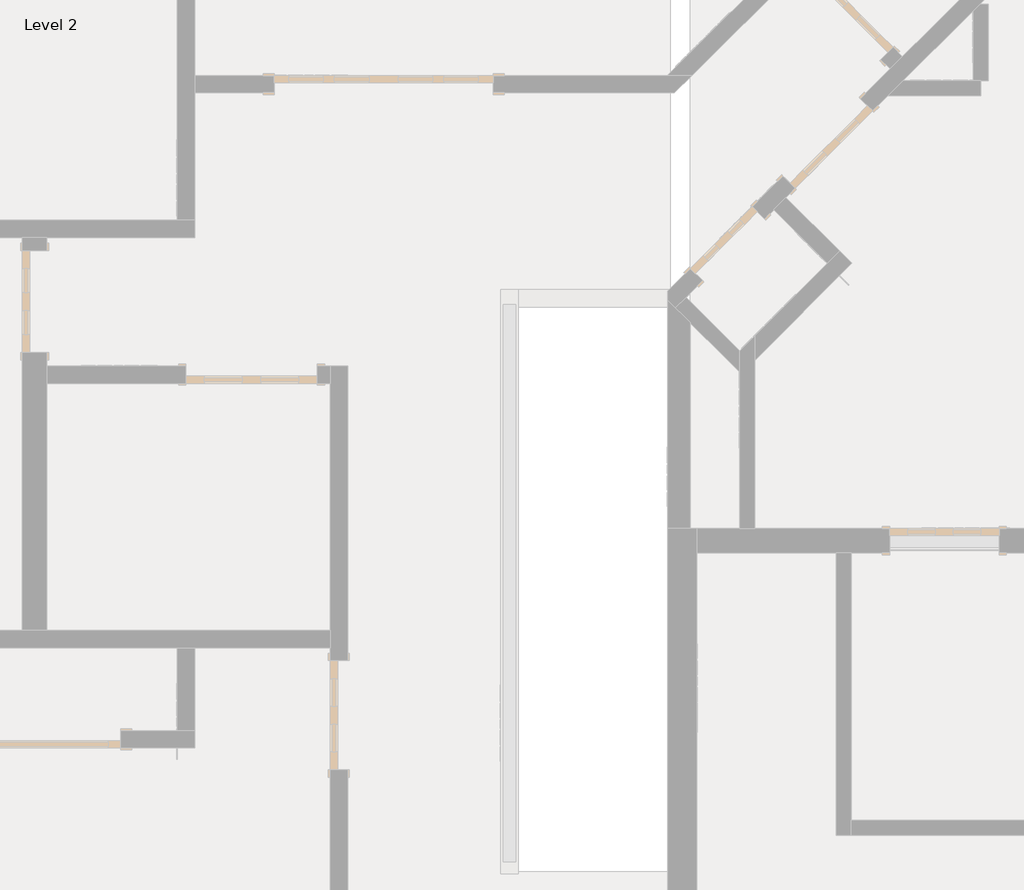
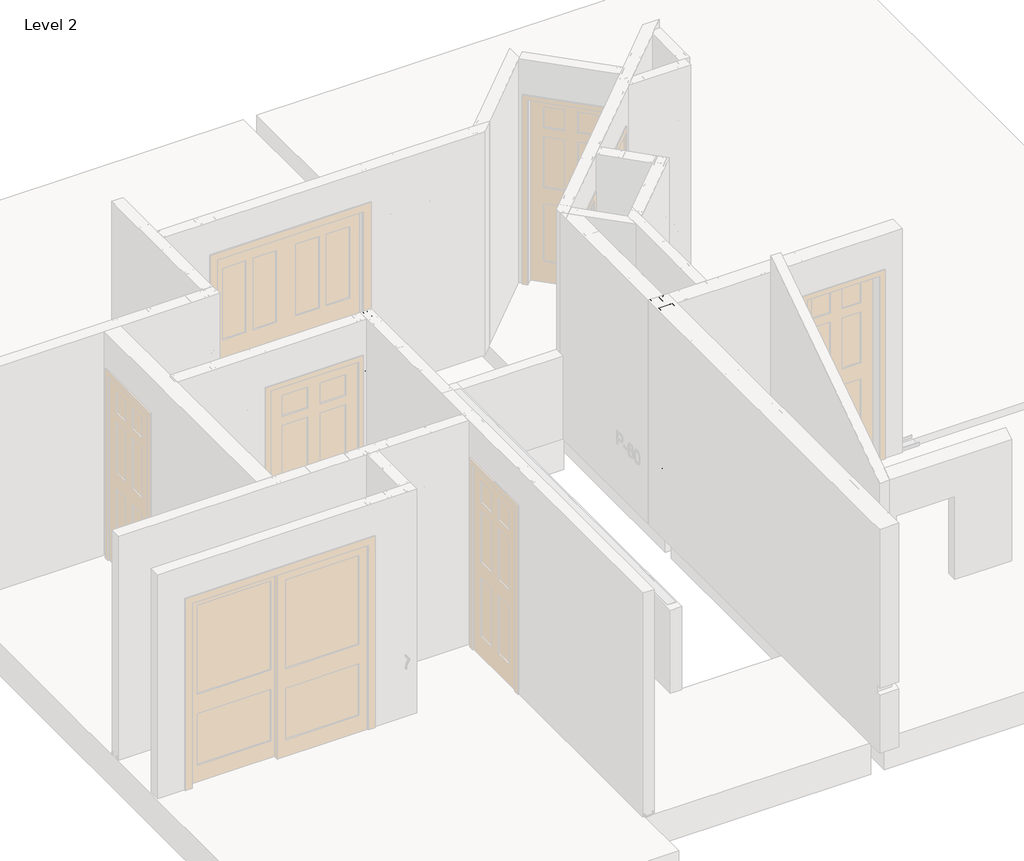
# One storey, part 16 of 46: 7 columns.
"""IFC4 building model written with IfcOpenShell, lengths in millimetres."""

from ifc_helpers import new_model, si_unit, point, frame, origin, place, context, project, spatial, circle_curve, ellipse_curve, trimmed, element, save
from ifc_brep_helpers import plane_surface, extruded_surface, advanced_brep

model = new_model("IFC4")

# Units and contexts
model_context = context("Model", 3, world=origin())
ifc_project = project(units=[si_unit("LENGTHUNIT", "METRE", prefix="MILLI")], contexts=[model_context])

# Site, building, storey
site = spatial("IfcSite", under=ifc_project)
building = spatial("IfcBuilding", under=site)
storey = spatial("IfcBuildingStorey", under=building, Name="Level 2", Elevation=3060.7)

# Columns
placement = place(None, origin())
element("IfcColumn", 1, ObjectType="BIMSF-SSMA-S-Column : 350NF150-33", at=placement, inside=storey, context=model_context, shape_type="AdvancedBrep", body=[
    advanced_brep(
    [(-10177.5913349, 7045.1849099, 3061.5929687), (-10266.4913349, 7045.1849099, 3061.5929687), (-10266.4913349, 7083.2849099, 3061.5929687), (-10260.8338191, 7083.2849099, 3061.5929687), (-10260.8338191, 7082.4025941, 3061.5929687), (-10265.6090191, 7082.4025941, 3061.5929687), (-10265.6090191, 7046.0672257, 3061.5929687), (-10178.4736507, 7046.0672257, 3061.5929687), (-10178.4736507, 7082.4025941, 3061.5929687), (-10183.2488507, 7082.4025941, 3061.5929687), (-10183.2488507, 7083.2849099, 3061.5929687), (-10177.5913349, 7083.2849099, 3061.5929687), (-10177.5913349, 7045.1849099, 3974.2070312), (-10266.4913349, 7045.1849099, 3974.2070312), (-10234.7413349, 7045.1849099, 3671.1929688), (-10209.3413349, 7045.1849099, 3671.1929688), (-10266.4913349, 7083.2849099, 3974.2070312), (-10260.8338191, 7083.2849099, 3974.2070312), (-10260.8338191, 7082.4025941, 3974.2070312), (-10265.6090191, 7082.4025941, 3974.2070312), (-10265.6090191, 7046.0672257, 3974.2070312), (-10178.4736507, 7046.0672257, 3974.2070312), (-10209.3413349, 7046.0672257, 3671.1929687), (-10234.7413349, 7046.0672257, 3671.1929687), (-10178.4736507, 7082.4025941, 3974.2070312), (-10183.2488507, 7082.4025941, 3974.2070312), (-10183.2488507, 7083.2849099, 3974.2070312), (-10177.5913349, 7083.2849099, 3974.2070312)],
    [
        (0, 1),
        (1, 2),
        (2, 3),
        (3, 4),
        (4, 5),
        (5, 6),
        (6, 7),
        (7, 8),
        (8, 9),
        (9, 10),
        (10, 11),
        (11, 0),
        (0, 12),
        (12, 13),
        (13, 1),
        (14, 15, circle_curve(frame((-10222.0413349, 7045.1849099, 3671.1929688), z_axis=(0.0, 1.0, 0.0), x_axis=(-1.0, 0.0, 0.0)), 12.7)),
        (15, 14, circle_curve(frame((-10222.0413349, 7045.1849099, 3671.1929687), z_axis=(0.0, 1.0, 0.0), x_axis=(-1.0, 0.0, 0.0)), 12.7)),
        (13, 16),
        (16, 2),
        (16, 17),
        (17, 3),
        (17, 18),
        (18, 4),
        (18, 19),
        (19, 5),
        (19, 20),
        (20, 6),
        (20, 21),
        (21, 7),
        (22, 23, circle_curve(frame((-10222.0413349, 7046.0672257, 3671.1929688), z_axis=(0.0, -1.0, 0.0), x_axis=(-1.0, 0.0, 0.0)), 12.7)),
        (23, 22, circle_curve(frame((-10222.0413349, 7046.0672257, 3671.1929687), z_axis=(0.0, -1.0, 0.0), x_axis=(-1.0, 0.0, 0.0)), 12.7)),
        (21, 24),
        (24, 8),
        (24, 25),
        (25, 9),
        (25, 26),
        (26, 10),
        (26, 27),
        (27, 11),
        (27, 12),
        (22, 15),
        (14, 23),
    ],
    [
        plane_surface(frame((-10177.5913349, 7045.1849099, 3061.5929687), z_axis=(0.0, 0.0, -1.0), x_axis=(0.0, -1.0, 0.0))),
        plane_surface(frame((-10266.4913349, 7045.1849099, 3974.2070312), z_axis=(0.0, -1.0, 0.0), x_axis=(0.0, 0.0, -1.0))),
        plane_surface(frame((-10266.4913349, 7083.2849099, 3974.2070312), z_axis=(-1.0, 0.0, 0.0), x_axis=(0.0, 0.0, -1.0))),
        plane_surface(frame((-10260.8338191, 7083.2849099, 3974.2070312), z_axis=(0.0, 1.0, 0.0), x_axis=(0.0, 0.0, -1.0))),
        plane_surface(frame((-10260.8338191, 7082.4025941, 3974.2070312), z_axis=(1.0, 0.0, 0.0), x_axis=(0.0, 0.0, -1.0))),
        plane_surface(frame((-10265.6090191, 7082.4025941, 3974.2070312), z_axis=(0.0, -1.0, 0.0), x_axis=(0.0, 0.0, -1.0))),
        plane_surface(frame((-10265.6090191, 7046.0672257, 3974.2070312), z_axis=(1.0, 0.0, 0.0), x_axis=(0.0, 0.0, -1.0))),
        plane_surface(frame((-10178.4736507, 7046.0672257, 3974.2070312), z_axis=(0.0, 1.0, 0.0), x_axis=(0.0, 0.0, -1.0))),
        plane_surface(frame((-10178.4736507, 7082.4025941, 3974.2070312), z_axis=(-1.0, 0.0, 0.0), x_axis=(0.0, 0.0, -1.0))),
        plane_surface(frame((-10183.2488507, 7082.4025941, 3974.2070312), z_axis=(0.0, -1.0, 0.0), x_axis=(0.0, 0.0, -1.0))),
        plane_surface(frame((-10183.2488507, 7083.2849099, 3974.2070312), z_axis=(-1.0, 0.0, 0.0), x_axis=(0.0, 0.0, -1.0))),
        plane_surface(frame((-10177.5913349, 7083.2849099, 3974.2070312), z_axis=(0.0, 1.0, 0.0), x_axis=(0.0, 0.0, -1.0))),
        plane_surface(frame((-10177.5913349, 7045.1849099, 3974.2070312), z_axis=(1.0, 0.0, 0.0), x_axis=(0.0, 0.0, -1.0))),
        plane_surface(frame((-10177.5913349, 7045.1849099, 3974.2070312), z_axis=(0.0, 0.0, 1.0), x_axis=(0.0, 1.0, 0.0))),
        extruded_surface(trimmed(ellipse_curve(frame((-10222.0413349, 7976.8489724, 3671.1929688), z_axis=(0.0, -1.0, 0.0), x_axis=(-1.0, 0.0, 0.0)), 12.7, 12.7), [point((-10209.3413349, 7976.8489724, 3671.1929688))], [point((-10234.7413349, 7976.8489724, 3671.1929688))], True, "CARTESIAN"), (0.0, 1825.2281250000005, 0.0), 1825.2281250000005),
        extruded_surface(trimmed(ellipse_curve(frame((-10222.0413349, 7976.8489724, 3671.1929688), z_axis=(0.0, -1.0, 0.0), x_axis=(-1.0, 0.0, 0.0)), 12.7, 12.7), [point((-10234.7413349, 7976.8489724, 3671.1929688))], [point((-10209.3413349, 7976.8489724, 3671.1929688))], True, "CARTESIAN"), (0.0, 1825.2281250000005, 0.0), 1825.2281250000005),
    ],
    [
        (0, [[1, 2, 3, 4, 5, 6, 7, 8, 9, 10, 11, 12]]),
        (1, [[-1, 13, 14, 15], [16, 17]]),
        (2, [[-2, -15, 18, 19]]),
        (3, [[-3, -19, 20, 21]]),
        (4, [[-4, -21, 22, 23]]),
        (5, [[-5, -23, 24, 25]]),
        (6, [[-6, -25, 26, 27]]),
        (7, [[-7, -27, 28, 29], [30, 31]]),
        (8, [[-8, -29, 32, 33]]),
        (9, [[-9, -33, 34, 35]]),
        (10, [[-10, -35, 36, 37]]),
        (11, [[-11, -37, 38, 39]]),
        (12, [[-12, -39, 40, -13]]),
        (13, [[-14, -40, -38, -36, -34, -32, -28, -26, -24, -22, -20, -18]]),
        (14, [[41, -16, 42, -30]]),
        (15, [[-41, -31, -42, -17]]),
    ],
),
])
element("IfcColumn", 2, ObjectType="BIMSF-SSMA-S-Column : 350NF150-33", at=placement, inside=storey, context=model_context, shape_type="AdvancedBrep", body=[
    advanced_brep(
    [(-10177.5913349, 7451.5849099, 3061.5929687), (-10266.4913349, 7451.5849099, 3061.5929687), (-10266.4913349, 7489.6849099, 3061.5929687), (-10260.8338191, 7489.6849099, 3061.5929687), (-10260.8338191, 7488.8025941, 3061.5929687), (-10265.6090191, 7488.8025941, 3061.5929687), (-10265.6090191, 7452.4672257, 3061.5929687), (-10178.4736507, 7452.4672257, 3061.5929687), (-10178.4736507, 7488.8025941, 3061.5929687), (-10183.2488507, 7488.8025941, 3061.5929687), (-10183.2488507, 7489.6849099, 3061.5929687), (-10177.5913349, 7489.6849099, 3061.5929687), (-10177.5913349, 7451.5849099, 3974.2070312), (-10266.4913349, 7451.5849099, 3974.2070312), (-10234.7413349, 7451.5849099, 3671.1929688), (-10209.3413349, 7451.5849099, 3671.1929688), (-10266.4913349, 7489.6849099, 3974.2070312), (-10260.8338191, 7489.6849099, 3974.2070312), (-10260.8338191, 7488.8025941, 3974.2070312), (-10265.6090191, 7488.8025941, 3974.2070312), (-10265.6090191, 7452.4672257, 3974.2070312), (-10178.4736507, 7452.4672257, 3974.2070312), (-10209.3413349, 7452.4672257, 3671.1929688), (-10234.7413349, 7452.4672257, 3671.1929688), (-10178.4736507, 7488.8025941, 3974.2070312), (-10183.2488507, 7488.8025941, 3974.2070312), (-10183.2488507, 7489.6849099, 3974.2070312), (-10177.5913349, 7489.6849099, 3974.2070312)],
    [
        (0, 1),
        (1, 2),
        (2, 3),
        (3, 4),
        (4, 5),
        (5, 6),
        (6, 7),
        (7, 8),
        (8, 9),
        (9, 10),
        (10, 11),
        (11, 0),
        (0, 12),
        (12, 13),
        (13, 1),
        (14, 15, circle_curve(frame((-10222.0413349, 7451.5849099, 3671.1929688), z_axis=(0.0, 1.0, 0.0), x_axis=(-1.0, 0.0, 0.0)), 12.7)),
        (15, 14, circle_curve(frame((-10222.0413349, 7451.5849099, 3671.1929688), z_axis=(0.0, 1.0, 0.0), x_axis=(-1.0, 0.0, 0.0)), 12.7)),
        (13, 16),
        (16, 2),
        (16, 17),
        (17, 3),
        (17, 18),
        (18, 4),
        (18, 19),
        (19, 5),
        (19, 20),
        (20, 6),
        (20, 21),
        (21, 7),
        (22, 23, circle_curve(frame((-10222.0413349, 7452.4672257, 3671.1929688), z_axis=(0.0, -1.0, 0.0), x_axis=(-1.0, 0.0, 0.0)), 12.7)),
        (23, 22, circle_curve(frame((-10222.0413349, 7452.4672257, 3671.1929688), z_axis=(0.0, -1.0, 0.0), x_axis=(-1.0, 0.0, 0.0)), 12.7)),
        (21, 24),
        (24, 8),
        (24, 25),
        (25, 9),
        (25, 26),
        (26, 10),
        (26, 27),
        (27, 11),
        (27, 12),
        (22, 15),
        (14, 23),
    ],
    [
        plane_surface(frame((-10177.5913349, 7451.5849099, 3061.5929687), z_axis=(0.0, 0.0, -1.0), x_axis=(0.0, -1.0, 0.0))),
        plane_surface(frame((-10266.4913349, 7451.5849099, 3974.2070312), z_axis=(0.0, -1.0, 0.0), x_axis=(0.0, 0.0, -1.0))),
        plane_surface(frame((-10266.4913349, 7489.6849099, 3974.2070312), z_axis=(-1.0, 0.0, 0.0), x_axis=(0.0, 0.0, -1.0))),
        plane_surface(frame((-10260.8338191, 7489.6849099, 3974.2070312), z_axis=(0.0, 1.0, 0.0), x_axis=(0.0, 0.0, -1.0))),
        plane_surface(frame((-10260.8338191, 7488.8025941, 3974.2070312), z_axis=(1.0, 0.0, 0.0), x_axis=(0.0, 0.0, -1.0))),
        plane_surface(frame((-10265.6090191, 7488.8025941, 3974.2070312), z_axis=(0.0, -1.0, 0.0), x_axis=(0.0, 0.0, -1.0))),
        plane_surface(frame((-10265.6090191, 7452.4672257, 3974.2070312), z_axis=(1.0, 0.0, 0.0), x_axis=(0.0, 0.0, -1.0))),
        plane_surface(frame((-10178.4736507, 7452.4672257, 3974.2070312), z_axis=(0.0, 1.0, 0.0), x_axis=(0.0, 0.0, -1.0))),
        plane_surface(frame((-10178.4736507, 7488.8025941, 3974.2070312), z_axis=(-1.0, 0.0, 0.0), x_axis=(0.0, 0.0, -1.0))),
        plane_surface(frame((-10183.2488507, 7488.8025941, 3974.2070312), z_axis=(0.0, -1.0, 0.0), x_axis=(0.0, 0.0, -1.0))),
        plane_surface(frame((-10183.2488507, 7489.6849099, 3974.2070312), z_axis=(-1.0, 0.0, 0.0), x_axis=(0.0, 0.0, -1.0))),
        plane_surface(frame((-10177.5913349, 7489.6849099, 3974.2070312), z_axis=(0.0, 1.0, 0.0), x_axis=(0.0, 0.0, -1.0))),
        plane_surface(frame((-10177.5913349, 7451.5849099, 3974.2070312), z_axis=(1.0, 0.0, 0.0), x_axis=(0.0, 0.0, -1.0))),
        plane_surface(frame((-10177.5913349, 7451.5849099, 3974.2070312), z_axis=(0.0, 0.0, 1.0), x_axis=(0.0, 1.0, 0.0))),
        extruded_surface(trimmed(ellipse_curve(frame((-10222.0413349, 8383.2489724, 3671.1929688), z_axis=(0.0, -1.0, 0.0), x_axis=(-1.0, 0.0, 0.0)), 12.7, 12.7), [point((-10209.3413349, 8383.2489724, 3671.1929688))], [point((-10234.7413349, 8383.2489724, 3671.1929688))], True, "CARTESIAN"), (0.0, 1825.2281249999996, 0.0), 1825.2281249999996),
        extruded_surface(trimmed(ellipse_curve(frame((-10222.0413349, 8383.2489724, 3671.1929688), z_axis=(0.0, -1.0, 0.0), x_axis=(-1.0, 0.0, 0.0)), 12.7, 12.7), [point((-10234.7413349, 8383.2489724, 3671.1929688))], [point((-10209.3413349, 8383.2489724, 3671.1929688))], True, "CARTESIAN"), (0.0, 1825.2281249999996, 0.0), 1825.2281249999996),
    ],
    [
        (0, [[1, 2, 3, 4, 5, 6, 7, 8, 9, 10, 11, 12]]),
        (1, [[-1, 13, 14, 15], [16, 17]]),
        (2, [[-2, -15, 18, 19]]),
        (3, [[-3, -19, 20, 21]]),
        (4, [[-4, -21, 22, 23]]),
        (5, [[-5, -23, 24, 25]]),
        (6, [[-6, -25, 26, 27]]),
        (7, [[-7, -27, 28, 29], [30, 31]]),
        (8, [[-8, -29, 32, 33]]),
        (9, [[-9, -33, 34, 35]]),
        (10, [[-10, -35, 36, 37]]),
        (11, [[-11, -37, 38, 39]]),
        (12, [[-12, -39, 40, -13]]),
        (13, [[-14, -40, -38, -36, -34, -32, -28, -26, -24, -22, -20, -18]]),
        (14, [[41, -16, 42, -30]]),
        (15, [[-41, -31, -42, -17]]),
    ],
),
])
element("IfcColumn", 3, ObjectType="BIMSF-SSMA-S-Column : 350NF150-33", at=placement, inside=storey, context=model_context, shape_type="AdvancedBrep", body=[
    advanced_brep(
    [(-10177.5913349, 7857.9849099, 3061.5929687), (-10266.4913349, 7857.9849099, 3061.5929687), (-10266.4913349, 7896.0849099, 3061.5929687), (-10260.8338191, 7896.0849099, 3061.5929687), (-10260.8338191, 7895.2025941, 3061.5929687), (-10265.6090191, 7895.2025941, 3061.5929687), (-10265.6090191, 7858.8672257, 3061.5929687), (-10178.4736507, 7858.8672257, 3061.5929687), (-10178.4736507, 7895.2025941, 3061.5929687), (-10183.2488507, 7895.2025941, 3061.5929687), (-10183.2488507, 7896.0849099, 3061.5929687), (-10177.5913349, 7896.0849099, 3061.5929687), (-10177.5913349, 7857.9849099, 3974.2070312), (-10266.4913349, 7857.9849099, 3974.2070312), (-10234.7413349, 7857.9849099, 3671.1929688), (-10209.3413349, 7857.9849099, 3671.1929688), (-10266.4913349, 7896.0849099, 3974.2070312), (-10260.8338191, 7896.0849099, 3974.2070312), (-10260.8338191, 7895.2025941, 3974.2070312), (-10265.6090191, 7895.2025941, 3974.2070312), (-10265.6090191, 7858.8672257, 3974.2070312), (-10178.4736507, 7858.8672257, 3974.2070312), (-10209.3413349, 7858.8672257, 3671.1929688), (-10234.7413349, 7858.8672257, 3671.1929688), (-10178.4736507, 7895.2025941, 3974.2070312), (-10183.2488507, 7895.2025941, 3974.2070312), (-10183.2488507, 7896.0849099, 3974.2070312), (-10177.5913349, 7896.0849099, 3974.2070312)],
    [
        (0, 1),
        (1, 2),
        (2, 3),
        (3, 4),
        (4, 5),
        (5, 6),
        (6, 7),
        (7, 8),
        (8, 9),
        (9, 10),
        (10, 11),
        (11, 0),
        (0, 12),
        (12, 13),
        (13, 1),
        (14, 15, circle_curve(frame((-10222.0413349, 7857.9849099, 3671.1929688), z_axis=(0.0, 1.0, 0.0), x_axis=(-1.0, 0.0, 0.0)), 12.7)),
        (15, 14, circle_curve(frame((-10222.0413349, 7857.9849099, 3671.1929688), z_axis=(0.0, 1.0, 0.0), x_axis=(-1.0, 0.0, 0.0)), 12.7)),
        (13, 16),
        (16, 2),
        (16, 17),
        (17, 3),
        (17, 18),
        (18, 4),
        (18, 19),
        (19, 5),
        (19, 20),
        (20, 6),
        (20, 21),
        (21, 7),
        (22, 23, circle_curve(frame((-10222.0413349, 7858.8672257, 3671.1929688), z_axis=(0.0, -1.0, 0.0), x_axis=(-1.0, 0.0, 0.0)), 12.7)),
        (23, 22, circle_curve(frame((-10222.0413349, 7858.8672257, 3671.1929688), z_axis=(0.0, -1.0, 0.0), x_axis=(-1.0, 0.0, 0.0)), 12.7)),
        (21, 24),
        (24, 8),
        (24, 25),
        (25, 9),
        (25, 26),
        (26, 10),
        (26, 27),
        (27, 11),
        (27, 12),
        (22, 15),
        (14, 23),
    ],
    [
        plane_surface(frame((-10177.5913349, 7857.9849099, 3061.5929687), z_axis=(0.0, 0.0, -1.0), x_axis=(0.0, -1.0, 0.0))),
        plane_surface(frame((-10266.4913349, 7857.9849099, 3974.2070312), z_axis=(0.0, -1.0, 0.0), x_axis=(0.0, 0.0, -1.0))),
        plane_surface(frame((-10266.4913349, 7896.0849099, 3974.2070312), z_axis=(-1.0, 0.0, 0.0), x_axis=(0.0, 0.0, -1.0))),
        plane_surface(frame((-10260.8338191, 7896.0849099, 3974.2070312), z_axis=(0.0, 1.0, 0.0), x_axis=(0.0, 0.0, -1.0))),
        plane_surface(frame((-10260.8338191, 7895.2025941, 3974.2070312), z_axis=(1.0, 0.0, 0.0), x_axis=(0.0, 0.0, -1.0))),
        plane_surface(frame((-10265.6090191, 7895.2025941, 3974.2070312), z_axis=(0.0, -1.0, 0.0), x_axis=(0.0, 0.0, -1.0))),
        plane_surface(frame((-10265.6090191, 7858.8672257, 3974.2070312), z_axis=(1.0, 0.0, 0.0), x_axis=(0.0, 0.0, -1.0))),
        plane_surface(frame((-10178.4736507, 7858.8672257, 3974.2070312), z_axis=(0.0, 1.0, 0.0), x_axis=(0.0, 0.0, -1.0))),
        plane_surface(frame((-10178.4736507, 7895.2025941, 3974.2070312), z_axis=(-1.0, 0.0, 0.0), x_axis=(0.0, 0.0, -1.0))),
        plane_surface(frame((-10183.2488507, 7895.2025941, 3974.2070312), z_axis=(0.0, -1.0, 0.0), x_axis=(0.0, 0.0, -1.0))),
        plane_surface(frame((-10183.2488507, 7896.0849099, 3974.2070312), z_axis=(-1.0, 0.0, 0.0), x_axis=(0.0, 0.0, -1.0))),
        plane_surface(frame((-10177.5913349, 7896.0849099, 3974.2070312), z_axis=(0.0, 1.0, 0.0), x_axis=(0.0, 0.0, -1.0))),
        plane_surface(frame((-10177.5913349, 7857.9849099, 3974.2070312), z_axis=(1.0, 0.0, 0.0), x_axis=(0.0, 0.0, -1.0))),
        plane_surface(frame((-10177.5913349, 7857.9849099, 3974.2070312), z_axis=(0.0, 0.0, 1.0), x_axis=(0.0, 1.0, 0.0))),
        extruded_surface(trimmed(ellipse_curve(frame((-10222.0413349, 8789.6489724, 3671.1929688), z_axis=(0.0, -1.0, 0.0), x_axis=(-1.0, 0.0, 0.0)), 12.7, 12.7), [point((-10209.3413349, 8789.6489724, 3671.1929688))], [point((-10234.7413349, 8789.6489724, 3671.1929688))], True, "CARTESIAN"), (0.0, 1825.2281249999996, 0.0), 1825.2281249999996),
        extruded_surface(trimmed(ellipse_curve(frame((-10222.0413349, 8789.6489724, 3671.1929688), z_axis=(0.0, -1.0, 0.0), x_axis=(-1.0, 0.0, 0.0)), 12.7, 12.7), [point((-10234.7413349, 8789.6489724, 3671.1929688))], [point((-10209.3413349, 8789.6489724, 3671.1929688))], True, "CARTESIAN"), (0.0, 1825.2281249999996, 0.0), 1825.2281249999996),
    ],
    [
        (0, [[1, 2, 3, 4, 5, 6, 7, 8, 9, 10, 11, 12]]),
        (1, [[-1, 13, 14, 15], [16, 17]]),
        (2, [[-2, -15, 18, 19]]),
        (3, [[-3, -19, 20, 21]]),
        (4, [[-4, -21, 22, 23]]),
        (5, [[-5, -23, 24, 25]]),
        (6, [[-6, -25, 26, 27]]),
        (7, [[-7, -27, 28, 29], [30, 31]]),
        (8, [[-8, -29, 32, 33]]),
        (9, [[-9, -33, 34, 35]]),
        (10, [[-10, -35, 36, 37]]),
        (11, [[-11, -37, 38, 39]]),
        (12, [[-12, -39, 40, -13]]),
        (13, [[-14, -40, -38, -36, -34, -32, -28, -26, -24, -22, -20, -18]]),
        (14, [[41, -16, 42, -30]]),
        (15, [[-41, -31, -42, -17]]),
    ],
),
])
element("IfcColumn", 4, ObjectType="BIMSF-SSMA-S-Column : 350NF150-33", at=placement, inside=storey, context=model_context, shape_type="AdvancedBrep", body=[
    advanced_brep(
    [(-11444.4163349, 7566.152221, 3061.5929687), (-11444.4163349, 7655.052221, 3061.5929687), (-11406.3163349, 7655.052221, 3061.5929687), (-11406.3163349, 7649.3947052, 3061.5929687), (-11407.1986507, 7649.3947052, 3061.5929687), (-11407.1986507, 7654.1699052, 3061.5929687), (-11443.5340191, 7654.1699052, 3061.5929687), (-11443.5340191, 7567.0345367, 3061.5929687), (-11407.1986507, 7567.0345367, 3061.5929687), (-11407.1986507, 7571.8097367, 3061.5929687), (-11406.3163349, 7571.8097367, 3061.5929687), (-11406.3163349, 7566.152221, 3061.5929687), (-11444.4163349, 7566.152221, 5523.6070313), (-11444.4163349, 7655.052221, 5523.6070313), (-11444.4163349, 7623.302221, 3671.1929688), (-11444.4163349, 7597.902221, 3671.1929688), (-11444.4163349, 7623.302221, 4890.3929687), (-11444.4163349, 7597.902221, 4890.3929687), (-11406.3163349, 7655.052221, 5523.6070313), (-11406.3163349, 7649.3947052, 5523.6070313), (-11407.1986507, 7649.3947052, 5523.6070313), (-11407.1986507, 7654.1699052, 5523.6070313), (-11443.5340191, 7654.1699052, 5523.6070313), (-11443.5340191, 7567.0345367, 5523.6070313), (-11443.5340191, 7597.902221, 3671.1929688), (-11443.5340191, 7623.302221, 3671.1929688), (-11443.5340191, 7597.902221, 4890.3929687), (-11443.5340191, 7623.302221, 4890.3929687), (-11407.1986507, 7567.0345367, 5523.6070313), (-11407.1986507, 7571.8097367, 5523.6070313), (-11406.3163349, 7571.8097367, 5523.6070313), (-11406.3163349, 7566.152221, 5523.6070313)],
    [
        (0, 1),
        (1, 2),
        (2, 3),
        (3, 4),
        (4, 5),
        (5, 6),
        (6, 7),
        (7, 8),
        (8, 9),
        (9, 10),
        (10, 11),
        (11, 0),
        (0, 12),
        (12, 13),
        (13, 1),
        (14, 15, circle_curve(frame((-11444.4163349, 7610.602221, 3671.1929688), z_axis=(1.0, 0.0, 0.0), x_axis=(0.0, 1.0, 0.0)), 12.7)),
        (15, 14, circle_curve(frame((-11444.4163349, 7610.602221, 3671.1929688), z_axis=(1.0, 0.0, 0.0), x_axis=(0.0, 1.0, 0.0)), 12.7)),
        (16, 17, circle_curve(frame((-11444.4163349, 7610.602221, 4890.3929687), z_axis=(1.0, 0.0, 0.0), x_axis=(0.0, 1.0, 0.0)), 12.7)),
        (17, 16, circle_curve(frame((-11444.4163349, 7610.602221, 4890.3929687), z_axis=(1.0, 0.0, 0.0), x_axis=(0.0, 1.0, 0.0)), 12.7)),
        (13, 18),
        (18, 2),
        (18, 19),
        (19, 3),
        (19, 20),
        (20, 4),
        (20, 21),
        (21, 5),
        (21, 22),
        (22, 6),
        (22, 23),
        (23, 7),
        (24, 25, circle_curve(frame((-11443.5340191, 7610.602221, 3671.1929688), z_axis=(-1.0, 0.0, 0.0), x_axis=(0.0, 1.0, 0.0)), 12.7)),
        (25, 24, circle_curve(frame((-11443.5340191, 7610.602221, 3671.1929687), z_axis=(-1.0, 0.0, 0.0), x_axis=(0.0, 1.0, 0.0)), 12.7)),
        (26, 27, circle_curve(frame((-11443.5340191, 7610.602221, 4890.3929687), z_axis=(-1.0, 0.0, 0.0), x_axis=(0.0, 1.0, 0.0)), 12.7)),
        (27, 26, circle_curve(frame((-11443.5340191, 7610.602221, 4890.3929687), z_axis=(-1.0, 0.0, 0.0), x_axis=(0.0, 1.0, 0.0)), 12.7)),
        (23, 28),
        (28, 8),
        (28, 29),
        (29, 9),
        (29, 30),
        (30, 10),
        (30, 31),
        (31, 11),
        (31, 12),
        (24, 15),
        (14, 25),
        (26, 17),
        (16, 27),
    ],
    [
        plane_surface(frame((-11444.4163349, 7566.152221, 3061.5929687), z_axis=(0.0, 0.0, -1.0), x_axis=(-1.0, 0.0, 0.0))),
        plane_surface(frame((-11444.4163349, 7655.052221, 5523.6070313), z_axis=(-1.0, 0.0, 0.0), x_axis=(0.0, 0.0, -1.0))),
        plane_surface(frame((-11406.3163349, 7655.052221, 5523.6070313), z_axis=(0.0, 1.0, 0.0), x_axis=(0.0, 0.0, -1.0))),
        plane_surface(frame((-11406.3163349, 7649.3947052, 5523.6070313), z_axis=(1.0, 0.0, 0.0), x_axis=(0.0, 0.0, -1.0))),
        plane_surface(frame((-11407.1986507, 7649.3947052, 5523.6070313), z_axis=(0.0, -1.0, 0.0), x_axis=(0.0, 0.0, -1.0))),
        plane_surface(frame((-11407.1986507, 7654.1699052, 5523.6070313), z_axis=(-1.0, 0.0, 0.0), x_axis=(0.0, 0.0, -1.0))),
        plane_surface(frame((-11443.5340191, 7654.1699052, 5523.6070313), z_axis=(0.0, -1.0, 0.0), x_axis=(0.0, 0.0, -1.0))),
        plane_surface(frame((-11443.5340191, 7567.0345367, 5523.6070313), z_axis=(1.0, 0.0, 0.0), x_axis=(0.0, 0.0, -1.0))),
        plane_surface(frame((-11407.1986507, 7567.0345367, 5523.6070313), z_axis=(0.0, 1.0, 0.0), x_axis=(0.0, 0.0, -1.0))),
        plane_surface(frame((-11407.1986507, 7571.8097367, 5523.6070313), z_axis=(-1.0, 0.0, 0.0), x_axis=(0.0, 0.0, -1.0))),
        plane_surface(frame((-11406.3163349, 7571.8097367, 5523.6070313), z_axis=(0.0, 1.0, 0.0), x_axis=(0.0, 0.0, -1.0))),
        plane_surface(frame((-11406.3163349, 7566.152221, 5523.6070313), z_axis=(1.0, 0.0, 0.0), x_axis=(0.0, 0.0, -1.0))),
        plane_surface(frame((-11444.4163349, 7566.152221, 5523.6070313), z_axis=(0.0, -1.0, 0.0), x_axis=(0.0, 0.0, -1.0))),
        plane_surface(frame((-11444.4163349, 7566.152221, 5523.6070313), z_axis=(0.0, 0.0, 1.0), x_axis=(1.0, 0.0, 0.0))),
        extruded_surface(trimmed(ellipse_curve(frame((-8963.3522724, 7610.602221, 3671.1929688), z_axis=(-1.0, 0.0, 0.0), x_axis=(0.0, 1.0, 0.0)), 12.7, 12.7), [point((-8963.3522724, 7597.902221, 3671.1929688))], [point((-8963.3522724, 7623.302221, 3671.1929688))], True, "CARTESIAN"), (4924.028124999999, 0.0, 0.0), 4924.028124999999),
        extruded_surface(trimmed(ellipse_curve(frame((-8963.3522724, 7610.602221, 3671.1929688), z_axis=(-1.0, 0.0, 0.0), x_axis=(0.0, 1.0, 0.0)), 12.7, 12.7), [point((-8963.3522724, 7623.302221, 3671.1929688))], [point((-8963.3522724, 7597.902221, 3671.1929688))], True, "CARTESIAN"), (4924.028124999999, 0.0, 0.0), 4924.028124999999),
        extruded_surface(trimmed(ellipse_curve(frame((-8963.3522724, 7610.602221, 4890.3929687), z_axis=(-1.0, 0.0, 0.0), x_axis=(0.0, 1.0, 0.0)), 12.7, 12.7), [point((-8963.3522724, 7597.902221, 4890.3929687))], [point((-8963.3522724, 7623.302221, 4890.3929687))], True, "CARTESIAN"), (4924.028124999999, 0.0, 0.0), 4924.028124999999),
        extruded_surface(trimmed(ellipse_curve(frame((-8963.3522724, 7610.602221, 4890.3929687), z_axis=(-1.0, 0.0, 0.0), x_axis=(0.0, 1.0, 0.0)), 12.7, 12.7), [point((-8963.3522724, 7623.302221, 4890.3929687))], [point((-8963.3522724, 7597.902221, 4890.3929687))], True, "CARTESIAN"), (4924.028124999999, 0.0, 0.0), 4924.028124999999),
    ],
    [
        (0, [[1, 2, 3, 4, 5, 6, 7, 8, 9, 10, 11, 12]]),
        (1, [[-1, 13, 14, 15], [16, 17], [18, 19]]),
        (2, [[-2, -15, 20, 21]]),
        (3, [[-3, -21, 22, 23]]),
        (4, [[-4, -23, 24, 25]]),
        (5, [[-5, -25, 26, 27]]),
        (6, [[-6, -27, 28, 29]]),
        (7, [[-7, -29, 30, 31], [32, 33], [34, 35]]),
        (8, [[-8, -31, 36, 37]]),
        (9, [[-9, -37, 38, 39]]),
        (10, [[-10, -39, 40, 41]]),
        (11, [[-11, -41, 42, 43]]),
        (12, [[-12, -43, 44, -13]]),
        (13, [[-14, -44, -42, -40, -38, -36, -30, -28, -26, -24, -22, -20]]),
        (14, [[45, -16, 46, -32]]),
        (15, [[-45, -33, -46, -17]]),
        (16, [[47, -18, 48, -34]]),
        (17, [[-47, -35, -48, -19]]),
    ],
),
])
element("IfcColumn", 5, ObjectType="BIMSF-SSMA-S-Column : 550NF150-33", at=placement, inside=storey, context=model_context, shape_type="AdvancedBrep", body=[
    advanced_brep(
    [(-8964.7413349, 6499.352221, 3061.5929687), (-9104.4413349, 6499.352221, 3061.5929687), (-9104.4413349, 6537.452221, 3061.5929687), (-9098.7838191, 6537.452221, 3061.5929687), (-9098.7838191, 6536.5699052, 3061.5929687), (-9103.5590191, 6536.5699052, 3061.5929687), (-9103.5590191, 6500.2345367, 3061.5929687), (-8965.6236507, 6500.2345367, 3061.5929687), (-8965.6236507, 6536.5699052, 3061.5929687), (-8970.3988507, 6536.5699052, 3061.5929687), (-8970.3988507, 6537.452221, 3061.5929687), (-8964.7413349, 6537.452221, 3061.5929687), (-8964.7413349, 6499.352221, 5523.6070313), (-9104.4413349, 6499.352221, 5523.6070313), (-9047.2913349, 6499.352221, 3671.1929687), (-9021.8913349, 6499.352221, 3671.1929687), (-9047.2913349, 6499.352221, 4890.3929688), (-9021.8913349, 6499.352221, 4890.3929687), (-9104.4413349, 6537.452221, 5523.6070313), (-9098.7838191, 6537.452221, 5523.6070313), (-9098.7838191, 6536.5699052, 5523.6070313), (-9103.5590191, 6536.5699052, 5523.6070313), (-9103.5590191, 6500.2345367, 5523.6070313), (-8965.6236507, 6500.2345367, 5523.6070313), (-9021.8913349, 6500.2345367, 3671.1929687), (-9047.2913349, 6500.2345367, 3671.1929687), (-9021.8913349, 6500.2345367, 4890.3929688), (-9047.2913349, 6500.2345367, 4890.3929688), (-8965.6236507, 6536.5699052, 5523.6070313), (-8970.3988507, 6536.5699052, 5523.6070313), (-8970.3988507, 6537.452221, 5523.6070313), (-8964.7413349, 6537.452221, 5523.6070313)],
    [
        (0, 1),
        (1, 2),
        (2, 3),
        (3, 4),
        (4, 5),
        (5, 6),
        (6, 7),
        (7, 8),
        (8, 9),
        (9, 10),
        (10, 11),
        (11, 0),
        (0, 12),
        (12, 13),
        (13, 1),
        (14, 15, circle_curve(frame((-9034.5913349, 6499.352221, 3671.1929688), z_axis=(0.0, 1.0, 0.0), x_axis=(-1.0, 0.0, 0.0)), 12.7)),
        (15, 14, circle_curve(frame((-9034.5913349, 6499.352221, 3671.1929688), z_axis=(0.0, 1.0, 0.0), x_axis=(-1.0, 0.0, 0.0)), 12.7)),
        (16, 17, circle_curve(frame((-9034.5913349, 6499.352221, 4890.3929687), z_axis=(0.0, 1.0, 0.0), x_axis=(-1.0, 0.0, 0.0)), 12.7)),
        (17, 16, circle_curve(frame((-9034.5913349, 6499.352221, 4890.3929687), z_axis=(0.0, 1.0, 0.0), x_axis=(-1.0, 0.0, 0.0)), 12.7)),
        (13, 18),
        (18, 2),
        (18, 19),
        (19, 3),
        (19, 20),
        (20, 4),
        (20, 21),
        (21, 5),
        (21, 22),
        (22, 6),
        (22, 23),
        (23, 7),
        (24, 25, circle_curve(frame((-9034.5913349, 6500.2345367, 3671.1929687), z_axis=(0.0, -1.0, 0.0), x_axis=(-1.0, 0.0, 0.0)), 12.7)),
        (25, 24, circle_curve(frame((-9034.5913349, 6500.2345367, 3671.1929688), z_axis=(0.0, -1.0, 0.0), x_axis=(-1.0, 0.0, 0.0)), 12.7)),
        (26, 27, circle_curve(frame((-9034.5913349, 6500.2345367, 4890.3929687), z_axis=(0.0, -1.0, 0.0), x_axis=(-1.0, 0.0, 0.0)), 12.7)),
        (27, 26, circle_curve(frame((-9034.5913349, 6500.2345367, 4890.3929687), z_axis=(0.0, -1.0, 0.0), x_axis=(-1.0, 0.0, 0.0)), 12.7)),
        (23, 28),
        (28, 8),
        (28, 29),
        (29, 9),
        (29, 30),
        (30, 10),
        (30, 31),
        (31, 11),
        (31, 12),
        (24, 15),
        (14, 25),
        (26, 17),
        (16, 27),
    ],
    [
        plane_surface(frame((-8964.7413349, 6499.352221, 3061.5929687), z_axis=(0.0, 0.0, -1.0), x_axis=(0.0, -1.0, 0.0))),
        plane_surface(frame((-9104.4413349, 6499.352221, 5523.6070313), z_axis=(0.0, -1.0, 0.0), x_axis=(0.0, 0.0, -1.0))),
        plane_surface(frame((-9104.4413349, 6537.452221, 5523.6070313), z_axis=(-1.0, 0.0, 0.0), x_axis=(0.0, 0.0, -1.0))),
        plane_surface(frame((-9098.7838191, 6537.452221, 5523.6070313), z_axis=(0.0, 1.0, 0.0), x_axis=(0.0, 0.0, -1.0))),
        plane_surface(frame((-9098.7838191, 6536.5699052, 5523.6070313), z_axis=(1.0, 0.0, 0.0), x_axis=(0.0, 0.0, -1.0))),
        plane_surface(frame((-9103.5590191, 6536.5699052, 5523.6070313), z_axis=(0.0, -1.0, 0.0), x_axis=(0.0, 0.0, -1.0))),
        plane_surface(frame((-9103.5590191, 6500.2345367, 5523.6070313), z_axis=(1.0, 0.0, 0.0), x_axis=(0.0, 0.0, -1.0))),
        plane_surface(frame((-8965.6236507, 6500.2345367, 5523.6070313), z_axis=(0.0, 1.0, 0.0), x_axis=(0.0, 0.0, -1.0))),
        plane_surface(frame((-8965.6236507, 6536.5699052, 5523.6070313), z_axis=(-1.0, 0.0, 0.0), x_axis=(0.0, 0.0, -1.0))),
        plane_surface(frame((-8970.3988507, 6536.5699052, 5523.6070313), z_axis=(0.0, -1.0, 0.0), x_axis=(0.0, 0.0, -1.0))),
        plane_surface(frame((-8970.3988507, 6537.452221, 5523.6070313), z_axis=(-1.0, 0.0, 0.0), x_axis=(0.0, 0.0, -1.0))),
        plane_surface(frame((-8964.7413349, 6537.452221, 5523.6070313), z_axis=(0.0, 1.0, 0.0), x_axis=(0.0, 0.0, -1.0))),
        plane_surface(frame((-8964.7413349, 6499.352221, 5523.6070313), z_axis=(1.0, 0.0, 0.0), x_axis=(0.0, 0.0, -1.0))),
        plane_surface(frame((-8964.7413349, 6499.352221, 5523.6070313), z_axis=(0.0, 0.0, 1.0), x_axis=(0.0, 1.0, 0.0))),
        extruded_surface(trimmed(ellipse_curve(frame((-9034.5913349, 8980.4162835, 3671.1929688), z_axis=(0.0, -1.0, 0.0), x_axis=(-1.0, 0.0, 0.0)), 12.7, 12.7), [point((-9021.8913349, 8980.4162835, 3671.1929688))], [point((-9047.2913349, 8980.4162835, 3671.1929688))], True, "CARTESIAN"), (0.0, 4924.028124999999, 0.0), 4924.028124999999),
        extruded_surface(trimmed(ellipse_curve(frame((-9034.5913349, 8980.4162835, 3671.1929688), z_axis=(0.0, -1.0, 0.0), x_axis=(-1.0, 0.0, 0.0)), 12.7, 12.7), [point((-9047.2913349, 8980.4162835, 3671.1929688))], [point((-9021.8913349, 8980.4162835, 3671.1929688))], True, "CARTESIAN"), (0.0, 4924.028124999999, 0.0), 4924.028124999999),
        extruded_surface(trimmed(ellipse_curve(frame((-9034.5913349, 8980.4162835, 4890.3929687), z_axis=(0.0, -1.0, 0.0), x_axis=(-1.0, 0.0, 0.0)), 12.7, 12.7), [point((-9021.8913349, 8980.4162835, 4890.3929687))], [point((-9047.2913349, 8980.4162835, 4890.3929687))], True, "CARTESIAN"), (0.0, 4924.028124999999, 0.0), 4924.028124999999),
        extruded_surface(trimmed(ellipse_curve(frame((-9034.5913349, 8980.4162835, 4890.3929687), z_axis=(0.0, -1.0, 0.0), x_axis=(-1.0, 0.0, 0.0)), 12.7, 12.7), [point((-9047.2913349, 8980.4162835, 4890.3929687))], [point((-9021.8913349, 8980.4162835, 4890.3929687))], True, "CARTESIAN"), (0.0, 4924.028124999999, 0.0), 4924.028124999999),
    ],
    [
        (0, [[1, 2, 3, 4, 5, 6, 7, 8, 9, 10, 11, 12]]),
        (1, [[-1, 13, 14, 15], [16, 17], [18, 19]]),
        (2, [[-2, -15, 20, 21]]),
        (3, [[-3, -21, 22, 23]]),
        (4, [[-4, -23, 24, 25]]),
        (5, [[-5, -25, 26, 27]]),
        (6, [[-6, -27, 28, 29]]),
        (7, [[-7, -29, 30, 31], [32, 33], [34, 35]]),
        (8, [[-8, -31, 36, 37]]),
        (9, [[-9, -37, 38, 39]]),
        (10, [[-10, -39, 40, 41]]),
        (11, [[-11, -41, 42, 43]]),
        (12, [[-12, -43, 44, -13]]),
        (13, [[-14, -44, -42, -40, -38, -36, -30, -28, -26, -24, -22, -20]]),
        (14, [[45, -16, 46, -32]]),
        (15, [[-45, -33, -46, -17]]),
        (16, [[47, -18, 48, -34]]),
        (17, [[-47, -35, -48, -19]]),
    ],
),
])
element("IfcColumn", 6, ObjectType="BIMSF-SSMA-S-Column : 550NF150-43", at=placement, inside=storey, context=model_context, shape_type="AdvancedBrep", body=[
    advanced_brep(
    [(-9019.5100849, 6385.052221, 3061.5929687), (-9019.5100849, 6524.752221, 3061.5929687), (-8981.4100849, 6524.752221, 3061.5929687), (-8981.4100849, 6518.8273367, 3061.5929687), (-8982.5597691, 6518.8273367, 3061.5929687), (-8982.5597691, 6523.6025367, 3061.5929687), (-9018.3604007, 6523.6025367, 3061.5929687), (-9018.3604007, 6386.2019052, 3061.5929687), (-8982.5597691, 6386.2019052, 3061.5929687), (-8982.5597691, 6390.9771052, 3061.5929687), (-8981.4100849, 6390.9771052, 3061.5929687), (-8981.4100849, 6385.052221, 3061.5929687), (-9019.5100849, 6385.052221, 5523.6070313), (-9019.5100849, 6524.752221, 5523.6070313), (-9019.5100849, 6467.602221, 3671.1929688), (-9019.5100849, 6442.202221, 3671.1929688), (-9019.5100849, 6467.602221, 4890.3929687), (-9019.5100849, 6442.202221, 4890.3929687), (-8981.4100849, 6524.752221, 5523.6070313), (-8981.4100849, 6518.8273367, 5523.6070313), (-8982.5597691, 6518.8273367, 5523.6070313), (-8982.5597691, 6523.6025367, 5523.6070313), (-9018.3604007, 6523.6025367, 5523.6070313), (-9018.3604007, 6386.2019052, 5523.6070313), (-9018.3604007, 6442.202221, 3671.1929688), (-9018.3604007, 6467.602221, 3671.1929688), (-9018.3604007, 6442.202221, 4890.3929687), (-9018.3604007, 6467.602221, 4890.3929687), (-8982.5597691, 6386.2019052, 5523.6070313), (-8982.5597691, 6390.9771052, 5523.6070313), (-8981.4100849, 6390.9771052, 5523.6070313), (-8981.4100849, 6385.052221, 5523.6070313)],
    [
        (0, 1),
        (1, 2),
        (2, 3),
        (3, 4),
        (4, 5),
        (5, 6),
        (6, 7),
        (7, 8),
        (8, 9),
        (9, 10),
        (10, 11),
        (11, 0),
        (0, 12),
        (12, 13),
        (13, 1),
        (14, 15, circle_curve(frame((-9019.5100849, 6454.902221, 3671.1929688), z_axis=(1.0, 0.0, 0.0), x_axis=(0.0, 1.0, 0.0)), 12.7)),
        (15, 14, circle_curve(frame((-9019.5100849, 6454.902221, 3671.1929688), z_axis=(1.0, 0.0, 0.0), x_axis=(0.0, 1.0, 0.0)), 12.7)),
        (16, 17, circle_curve(frame((-9019.5100849, 6454.902221, 4890.3929687), z_axis=(1.0, 0.0, 0.0), x_axis=(0.0, 1.0, 0.0)), 12.7)),
        (17, 16, circle_curve(frame((-9019.5100849, 6454.902221, 4890.3929687), z_axis=(1.0, 0.0, 0.0), x_axis=(0.0, 1.0, 0.0)), 12.7)),
        (13, 18),
        (18, 2),
        (18, 19),
        (19, 3),
        (19, 20),
        (20, 4),
        (20, 21),
        (21, 5),
        (21, 22),
        (22, 6),
        (22, 23),
        (23, 7),
        (24, 25, circle_curve(frame((-9018.3604007, 6454.902221, 3671.1929687), z_axis=(-1.0, 0.0, 0.0), x_axis=(0.0, 1.0, 0.0)), 12.7)),
        (25, 24, circle_curve(frame((-9018.3604007, 6454.902221, 3671.1929687), z_axis=(-1.0, 0.0, 0.0), x_axis=(0.0, 1.0, 0.0)), 12.7)),
        (26, 27, circle_curve(frame((-9018.3604007, 6454.902221, 4890.3929687), z_axis=(-1.0, 0.0, 0.0), x_axis=(0.0, 1.0, 0.0)), 12.7)),
        (27, 26, circle_curve(frame((-9018.3604007, 6454.902221, 4890.3929687), z_axis=(-1.0, 0.0, 0.0), x_axis=(0.0, 1.0, 0.0)), 12.7)),
        (23, 28),
        (28, 8),
        (28, 29),
        (29, 9),
        (29, 30),
        (30, 10),
        (30, 31),
        (31, 11),
        (31, 12),
        (24, 15),
        (14, 25),
        (26, 17),
        (16, 27),
    ],
    [
        plane_surface(frame((-9019.5100849, 6385.052221, 3061.5929687), z_axis=(0.0, 0.0, -1.0), x_axis=(-1.0, 0.0, 0.0))),
        plane_surface(frame((-9019.5100849, 6524.752221, 5523.6070313), z_axis=(-1.0, 0.0, 0.0), x_axis=(0.0, 0.0, -1.0))),
        plane_surface(frame((-8981.4100849, 6524.752221, 5523.6070313), z_axis=(0.0, 1.0, 0.0), x_axis=(0.0, 0.0, -1.0))),
        plane_surface(frame((-8981.4100849, 6518.8273367, 5523.6070313), z_axis=(1.0, 0.0, 0.0), x_axis=(0.0, 0.0, -1.0))),
        plane_surface(frame((-8982.5597691, 6518.8273367, 5523.6070313), z_axis=(0.0, -1.0, 0.0), x_axis=(0.0, 0.0, -1.0))),
        plane_surface(frame((-8982.5597691, 6523.6025367, 5523.6070313), z_axis=(-1.0, 0.0, 0.0), x_axis=(0.0, 0.0, -1.0))),
        plane_surface(frame((-9018.3604007, 6523.6025367, 5523.6070313), z_axis=(0.0, -1.0, 0.0), x_axis=(0.0, 0.0, -1.0))),
        plane_surface(frame((-9018.3604007, 6386.2019052, 5523.6070313), z_axis=(1.0, 0.0, 0.0), x_axis=(0.0, 0.0, -1.0))),
        plane_surface(frame((-8982.5597691, 6386.2019052, 5523.6070313), z_axis=(0.0, 1.0, 0.0), x_axis=(0.0, 0.0, -1.0))),
        plane_surface(frame((-8982.5597691, 6390.9771052, 5523.6070313), z_axis=(-1.0, 0.0, 0.0), x_axis=(0.0, 0.0, -1.0))),
        plane_surface(frame((-8981.4100849, 6390.9771052, 5523.6070313), z_axis=(0.0, 1.0, 0.0), x_axis=(0.0, 0.0, -1.0))),
        plane_surface(frame((-8981.4100849, 6385.052221, 5523.6070313), z_axis=(1.0, 0.0, 0.0), x_axis=(0.0, 0.0, -1.0))),
        plane_surface(frame((-9019.5100849, 6385.052221, 5523.6070313), z_axis=(0.0, -1.0, 0.0), x_axis=(0.0, 0.0, -1.0))),
        plane_surface(frame((-9019.5100849, 6385.052221, 5523.6070313), z_axis=(0.0, 0.0, 1.0), x_axis=(1.0, 0.0, 0.0))),
        extruded_surface(trimmed(ellipse_curve(frame((-6538.4460224, 6454.902221, 3671.1929688), z_axis=(-1.0, 0.0, 0.0), x_axis=(0.0, 1.0, 0.0)), 12.7, 12.7), [point((-6538.4460224, 6442.202221, 3671.1929688))], [point((-6538.4460224, 6467.602221, 3671.1929688))], True, "CARTESIAN"), (4924.028125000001, 0.0, 0.0), 4924.028125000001),
        extruded_surface(trimmed(ellipse_curve(frame((-6538.4460224, 6454.902221, 3671.1929688), z_axis=(-1.0, 0.0, 0.0), x_axis=(0.0, 1.0, 0.0)), 12.7, 12.7), [point((-6538.4460224, 6467.602221, 3671.1929688))], [point((-6538.4460224, 6442.202221, 3671.1929688))], True, "CARTESIAN"), (4924.028125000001, 0.0, 0.0), 4924.028125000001),
        extruded_surface(trimmed(ellipse_curve(frame((-6538.4460224, 6454.902221, 4890.3929687), z_axis=(-1.0, 0.0, 0.0), x_axis=(0.0, 1.0, 0.0)), 12.7, 12.7), [point((-6538.4460224, 6442.202221, 4890.3929687))], [point((-6538.4460224, 6467.602221, 4890.3929687))], True, "CARTESIAN"), (4924.028125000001, 0.0, 0.0), 4924.028125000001),
        extruded_surface(trimmed(ellipse_curve(frame((-6538.4460224, 6454.902221, 4890.3929687), z_axis=(-1.0, 0.0, 0.0), x_axis=(0.0, 1.0, 0.0)), 12.7, 12.7), [point((-6538.4460224, 6467.602221, 4890.3929687))], [point((-6538.4460224, 6442.202221, 4890.3929687))], True, "CARTESIAN"), (4924.028125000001, 0.0, 0.0), 4924.028125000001),
    ],
    [
        (0, [[1, 2, 3, 4, 5, 6, 7, 8, 9, 10, 11, 12]]),
        (1, [[-1, 13, 14, 15], [16, 17], [18, 19]]),
        (2, [[-2, -15, 20, 21]]),
        (3, [[-3, -21, 22, 23]]),
        (4, [[-4, -23, 24, 25]]),
        (5, [[-5, -25, 26, 27]]),
        (6, [[-6, -27, 28, 29]]),
        (7, [[-7, -29, 30, 31], [32, 33], [34, 35]]),
        (8, [[-8, -31, 36, 37]]),
        (9, [[-9, -37, 38, 39]]),
        (10, [[-10, -39, 40, 41]]),
        (11, [[-11, -41, 42, 43]]),
        (12, [[-12, -43, 44, -13]]),
        (13, [[-14, -44, -42, -40, -38, -36, -30, -28, -26, -24, -22, -20]]),
        (14, [[45, -16, 46, -32]]),
        (15, [[-45, -33, -46, -17]]),
        (16, [[47, -18, 48, -34]]),
        (17, [[-47, -35, -48, -19]]),
    ],
),
])
element("IfcColumn", 7, ObjectType="BIMSF-SSMA-S-Column : 550NF150-43", at=placement, inside=storey, context=model_context, shape_type="AdvancedBrep", body=[
    advanced_brep(
    [(-9104.4413349, 6385.052221, 3061.5929687), (-8964.7413349, 6385.052221, 3061.5929687), (-8964.7413349, 6346.952221, 3061.5929687), (-8970.6662191, 6346.952221, 3061.5929687), (-8970.6662191, 6348.1019052, 3061.5929687), (-8965.8910191, 6348.1019052, 3061.5929687), (-8965.8910191, 6383.9025367, 3061.5929687), (-9103.2916507, 6383.9025367, 3061.5929687), (-9103.2916507, 6348.1019052, 3061.5929687), (-9098.5164507, 6348.1019052, 3061.5929687), (-9098.5164507, 6346.952221, 3061.5929687), (-9104.4413349, 6346.952221, 3061.5929687), (-9104.4413349, 6385.052221, 5523.6070313), (-8964.7413349, 6385.052221, 5523.6070313), (-9021.8913349, 6385.052221, 3671.1929688), (-9047.2913349, 6385.052221, 3671.1929688), (-9021.8913349, 6385.052221, 4890.3929687), (-9047.2913349, 6385.052221, 4890.3929687), (-8964.7413349, 6346.952221, 5523.6070313), (-8970.6662191, 6346.952221, 5523.6070313), (-8970.6662191, 6348.1019052, 5523.6070313), (-8965.8910191, 6348.1019052, 5523.6070313), (-8965.8910191, 6383.9025367, 5523.6070313), (-9103.2916507, 6383.9025367, 5523.6070313), (-9047.2913349, 6383.9025367, 3671.1929688), (-9021.8913349, 6383.9025367, 3671.1929688), (-9047.2913349, 6383.9025367, 4890.3929687), (-9021.8913349, 6383.9025367, 4890.3929687), (-9103.2916507, 6348.1019052, 5523.6070313), (-9098.5164507, 6348.1019052, 5523.6070313), (-9098.5164507, 6346.952221, 5523.6070313), (-9104.4413349, 6346.952221, 5523.6070313)],
    [
        (0, 1),
        (1, 2),
        (2, 3),
        (3, 4),
        (4, 5),
        (5, 6),
        (6, 7),
        (7, 8),
        (8, 9),
        (9, 10),
        (10, 11),
        (11, 0),
        (0, 12),
        (12, 13),
        (13, 1),
        (14, 15, circle_curve(frame((-9034.5913349, 6385.052221, 3671.1929688), z_axis=(0.0, -1.0, 0.0), x_axis=(1.0, 0.0, 0.0)), 12.7)),
        (15, 14, circle_curve(frame((-9034.5913349, 6385.052221, 3671.1929688), z_axis=(0.0, -1.0, 0.0), x_axis=(1.0, 0.0, 0.0)), 12.7)),
        (16, 17, circle_curve(frame((-9034.5913349, 6385.052221, 4890.3929687), z_axis=(0.0, -1.0, 0.0), x_axis=(1.0, 0.0, 0.0)), 12.7)),
        (17, 16, circle_curve(frame((-9034.5913349, 6385.052221, 4890.3929687), z_axis=(0.0, -1.0, 0.0), x_axis=(1.0, 0.0, 0.0)), 12.7)),
        (13, 18),
        (18, 2),
        (18, 19),
        (19, 3),
        (19, 20),
        (20, 4),
        (20, 21),
        (21, 5),
        (21, 22),
        (22, 6),
        (22, 23),
        (23, 7),
        (24, 25, circle_curve(frame((-9034.5913349, 6383.9025367, 3671.1929687), z_axis=(0.0, 1.0, 0.0), x_axis=(1.0, 0.0, 0.0)), 12.7)),
        (25, 24, circle_curve(frame((-9034.5913349, 6383.9025367, 3671.1929687), z_axis=(0.0, 1.0, 0.0), x_axis=(1.0, 0.0, 0.0)), 12.7)),
        (26, 27, circle_curve(frame((-9034.5913349, 6383.9025367, 4890.3929687), z_axis=(0.0, 1.0, 0.0), x_axis=(1.0, 0.0, 0.0)), 12.7)),
        (27, 26, circle_curve(frame((-9034.5913349, 6383.9025367, 4890.3929687), z_axis=(0.0, 1.0, 0.0), x_axis=(1.0, 0.0, 0.0)), 12.7)),
        (23, 28),
        (28, 8),
        (28, 29),
        (29, 9),
        (29, 30),
        (30, 10),
        (30, 31),
        (31, 11),
        (31, 12),
        (24, 15),
        (14, 25),
        (26, 17),
        (16, 27),
    ],
    [
        plane_surface(frame((-9104.4413349, 6385.052221, 3061.5929687), z_axis=(0.0, 0.0, -1.0), x_axis=(0.0, 1.0, 0.0))),
        plane_surface(frame((-8964.7413349, 6385.052221, 5523.6070313), z_axis=(0.0, 1.0, 0.0), x_axis=(0.0, 0.0, -1.0))),
        plane_surface(frame((-8964.7413349, 6346.952221, 5523.6070313), z_axis=(1.0, 0.0, 0.0), x_axis=(0.0, 0.0, -1.0))),
        plane_surface(frame((-8970.6662191, 6346.952221, 5523.6070313), z_axis=(0.0, -1.0, 0.0), x_axis=(0.0, 0.0, -1.0))),
        plane_surface(frame((-8970.6662191, 6348.1019052, 5523.6070313), z_axis=(-1.0, 0.0, 0.0), x_axis=(0.0, 0.0, -1.0))),
        plane_surface(frame((-8965.8910191, 6348.1019052, 5523.6070313), z_axis=(0.0, 1.0, 0.0), x_axis=(0.0, 0.0, -1.0))),
        plane_surface(frame((-8965.8910191, 6383.9025367, 5523.6070313), z_axis=(-1.0, 0.0, 0.0), x_axis=(0.0, 0.0, -1.0))),
        plane_surface(frame((-9103.2916507, 6383.9025367, 5523.6070313), z_axis=(0.0, -1.0, 0.0), x_axis=(0.0, 0.0, -1.0))),
        plane_surface(frame((-9103.2916507, 6348.1019052, 5523.6070313), z_axis=(1.0, 0.0, 0.0), x_axis=(0.0, 0.0, -1.0))),
        plane_surface(frame((-9098.5164507, 6348.1019052, 5523.6070313), z_axis=(0.0, 1.0, 0.0), x_axis=(0.0, 0.0, -1.0))),
        plane_surface(frame((-9098.5164507, 6346.952221, 5523.6070313), z_axis=(1.0, 0.0, 0.0), x_axis=(0.0, 0.0, -1.0))),
        plane_surface(frame((-9104.4413349, 6346.952221, 5523.6070313), z_axis=(0.0, -1.0, 0.0), x_axis=(0.0, 0.0, -1.0))),
        plane_surface(frame((-9104.4413349, 6385.052221, 5523.6070313), z_axis=(-1.0, 0.0, 0.0), x_axis=(0.0, 0.0, -1.0))),
        plane_surface(frame((-9104.4413349, 6385.052221, 5523.6070313), z_axis=(0.0, 0.0, 1.0), x_axis=(0.0, -1.0, 0.0))),
        extruded_surface(trimmed(ellipse_curve(frame((-9034.5913349, 3903.9881585, 3671.1929688), z_axis=(0.0, 1.0, 0.0), x_axis=(1.0, 0.0, 0.0)), 12.7, 12.7), [point((-9047.2913349, 3903.9881585, 3671.1929688))], [point((-9021.8913349, 3903.9881585, 3671.1929688))], True, "CARTESIAN"), (0.0, -4924.028125, 0.0), 4924.028125),
        extruded_surface(trimmed(ellipse_curve(frame((-9034.5913349, 3903.9881585, 3671.1929688), z_axis=(0.0, 1.0, 0.0), x_axis=(1.0, 0.0, 0.0)), 12.7, 12.7), [point((-9021.8913349, 3903.9881585, 3671.1929688))], [point((-9047.2913349, 3903.9881585, 3671.1929688))], True, "CARTESIAN"), (0.0, -4924.028125, 0.0), 4924.028125),
        extruded_surface(trimmed(ellipse_curve(frame((-9034.5913349, 3903.9881585, 4890.3929687), z_axis=(0.0, 1.0, 0.0), x_axis=(1.0, 0.0, 0.0)), 12.7, 12.7), [point((-9047.2913349, 3903.9881585, 4890.3929687))], [point((-9021.8913349, 3903.9881585, 4890.3929687))], True, "CARTESIAN"), (0.0, -4924.028125, 0.0), 4924.028125),
        extruded_surface(trimmed(ellipse_curve(frame((-9034.5913349, 3903.9881585, 4890.3929687), z_axis=(0.0, 1.0, 0.0), x_axis=(1.0, 0.0, 0.0)), 12.7, 12.7), [point((-9021.8913349, 3903.9881585, 4890.3929687))], [point((-9047.2913349, 3903.9881585, 4890.3929687))], True, "CARTESIAN"), (0.0, -4924.028125, 0.0), 4924.028125),
    ],
    [
        (0, [[1, 2, 3, 4, 5, 6, 7, 8, 9, 10, 11, 12]]),
        (1, [[-1, 13, 14, 15], [16, 17], [18, 19]]),
        (2, [[-2, -15, 20, 21]]),
        (3, [[-3, -21, 22, 23]]),
        (4, [[-4, -23, 24, 25]]),
        (5, [[-5, -25, 26, 27]]),
        (6, [[-6, -27, 28, 29]]),
        (7, [[-7, -29, 30, 31], [32, 33], [34, 35]]),
        (8, [[-8, -31, 36, 37]]),
        (9, [[-9, -37, 38, 39]]),
        (10, [[-10, -39, 40, 41]]),
        (11, [[-11, -41, 42, 43]]),
        (12, [[-12, -43, 44, -13]]),
        (13, [[-14, -44, -42, -40, -38, -36, -30, -28, -26, -24, -22, -20]]),
        (14, [[45, -16, 46, -32]]),
        (15, [[-45, -33, -46, -17]]),
        (16, [[47, -18, 48, -34]]),
        (17, [[-47, -35, -48, -19]]),
    ],
),
])

save(model, "model.ifc")
